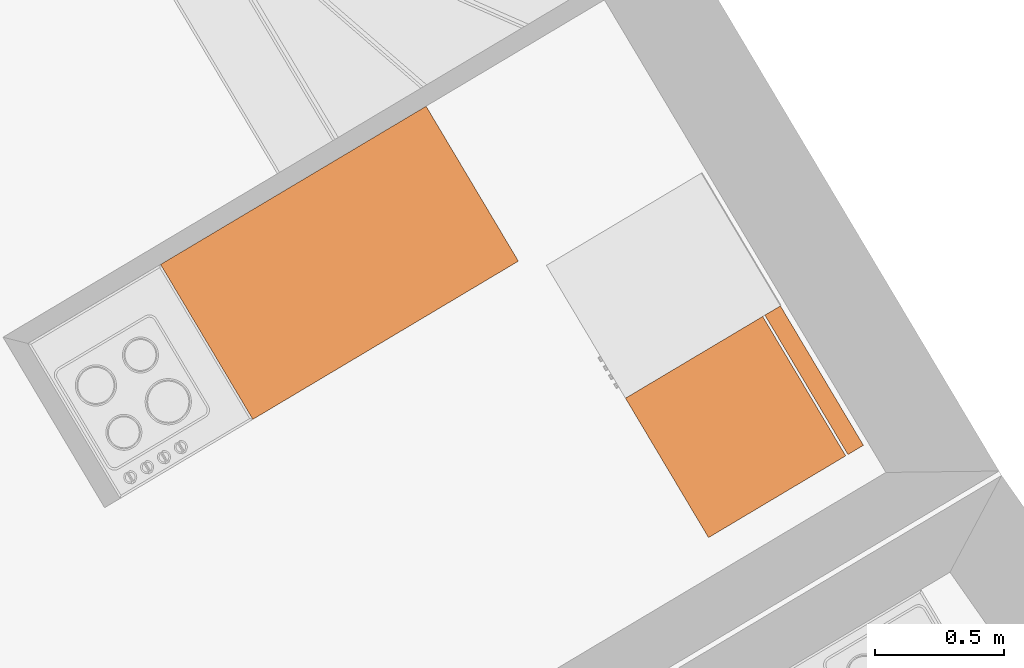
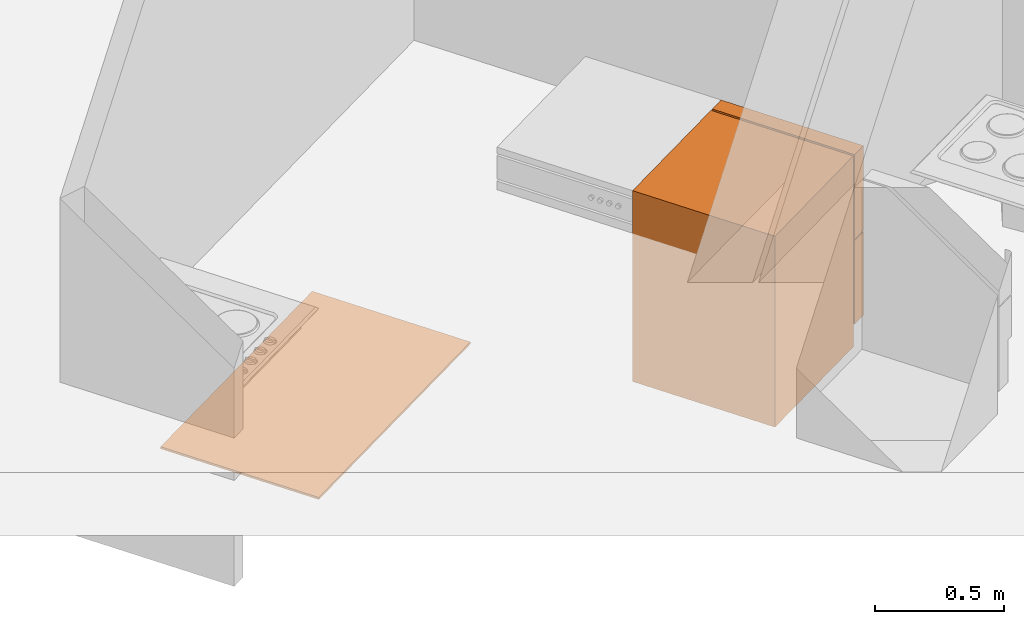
# One storey, part 188 of 195: 2 proxies.
"""IFC2X3 building model written with IfcOpenShell, lengths in metres."""

from ifc_helpers import new_model, entity, si_unit, converted_unit, derived_unit, money_unit, direction, frame, origin_with_axes, place, context, subcontext, project, spatial, open_shell, faceted_brep, surface_model, type_object, element, save


model = new_model("IFC2X3")

# Units and contexts
model_context = context("Model", 3, precision=1e-05, world=origin_with_axes(), true_north=direction((0.0, 1.0)))
body_context = subcontext(model_context, "Body", "Model", "MODEL_VIEW")
ifc_project = project(units=[si_unit("LENGTHUNIT", "METRE"), si_unit("AREAUNIT", "SQUARE_METRE"), si_unit("VOLUMEUNIT", "CUBIC_METRE"), converted_unit("PLANEANGLEUNIT", "DEGREE", entity("IfcPlaneAngleMeasure", 0.0174532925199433), si_unit("PLANEANGLEUNIT", "RADIAN"), dimensions=[0, 0, 0, 0, 0, 0, 0]), money_unit("CHF"), converted_unit("TIMEUNIT", "Year", entity("IfcTimeMeasure", 31557600.0), si_unit("TIMEUNIT", "SECOND"), dimensions=[0, 0, 1, 0, 0, 0, 0]), si_unit("MASSUNIT", "GRAM", prefix="KILO"), si_unit("THERMODYNAMICTEMPERATUREUNIT", "DEGREE_CELSIUS"), si_unit("LUMINOUSINTENSITYUNIT", "LUMEN"), si_unit("ENERGYUNIT", "JOULE", prefix="MEGA"), derived_unit("THERMALCONDUCTANCEUNIT", [(si_unit("POWERUNIT", "WATT"), 1), (si_unit("LENGTHUNIT", "METRE"), -1), (si_unit("THERMODYNAMICTEMPERATUREUNIT", "KELVIN"), -1)]), derived_unit("SPECIFICHEATCAPACITYUNIT", [(si_unit("ENERGYUNIT", "JOULE"), 1), (si_unit("MASSUNIT", "GRAM", prefix="KILO"), -1), (si_unit("THERMODYNAMICTEMPERATUREUNIT", "KELVIN"), -1)]), derived_unit("MASSDENSITYUNIT", [(si_unit("MASSUNIT", "GRAM", prefix="KILO"), 1), (si_unit("VOLUMEUNIT", "CUBIC_METRE"), -1)])], contexts=[model_context])

# Site, building, storey
site_placement = place(None, origin_with_axes())
site = spatial("IfcSite", under=ifc_project, at=site_placement, Name="Site", CompositionType="ELEMENT")
building_placement = place(site_placement, origin_with_axes())
building = spatial("IfcBuilding", under=site, at=building_placement, Name="Bâtiment", CompositionType="ELEMENT")
storey_placement = place(building_placement, origin_with_axes())
storey = spatial("IfcBuildingStorey", under=building, at=storey_placement, Name="rdc", CompositionType="ELEMENT", Elevation=0.0)

# Proxies
building_element_proxy_type = type_object("IfcBuildingElementProxyType", PredefinedType="NOTDEFINED")
proxy_1_placement = place(storey_placement, frame((9546.923154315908, -1051.068865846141, 57.0), z_axis=(0.0, 0.0, 1.0), x_axis=(0.8590868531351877, 0.511829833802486, 0.0)))
element("IfcBuildingElementProxy", 1, at=proxy_1_placement, inside=storey, type_object=building_element_proxy_type, Name="Obj.-019", context=body_context, shape_type="Brep", body=[
    faceted_brep([(1.2, 0.0, 0.0), (0.0, 0.0, 0.0), (0.0, 0.7, 0.0), (1.2, 0.7, 0.0), (1.2, 0.0, 0.009999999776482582), (0.0, 0.0, 0.009999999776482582), (0.0, 0.7, 0.009999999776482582), (1.2, 0.7, 0.009999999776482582)], [[[0, 1, 2, 3]], [[1, 0, 4, 5]], [[2, 1, 5, 6]], [[3, 2, 6, 7]], [[0, 3, 7, 4]], [[5, 4, 7, 6]]]),
])
proxy_2_placement = place(storey_placement, frame((9549.293685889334, -1051.169677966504, 57.0), z_axis=(0.0, 0.0, 1.0), x_axis=(-0.5118298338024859, 0.8590868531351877, 0.0)))
element("IfcBuildingElementProxy", 2, at=proxy_2_placement, inside=storey, type_object=building_element_proxy_type, Name="Obj.-019", context=body_context, shape_type="SurfaceModel", body=[
    faceted_brep([(0.0, 0.08, 0.1), (0.63, 0.08, 0.1), (0.63, 0.08, 0.9), (0.0, 0.08, 0.9), (0.0, 0.7000000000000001, 0.1), (0.63, 0.7000000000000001, 0.1), (0.63, 0.7000000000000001, 0.9), (0.0, 0.7000000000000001, 0.9)], [[[0, 1, 2, 3]], [[0, 4, 5, 1]], [[1, 5, 6, 2]], [[3, 2, 6, 7]], [[4, 0, 3, 7]], [[5, 4, 7, 6]]]),
    faceted_brep([(0.0, 0.08, 0.0), (0.63, 0.08, 0.0), (0.63, 0.08, 0.1), (0.0, 0.08, 0.1), (0.0, 0.7000000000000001, 0.0), (0.63, 0.7000000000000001, 0.0), (0.63, 0.7000000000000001, 0.1), (0.0, 0.7000000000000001, 0.1)], [[[0, 1, 2, 3]], [[0, 4, 5, 1]], [[1, 5, 6, 2]], [[3, 2, 6, 7]], [[4, 0, 3, 7]], [[5, 4, 7, 6]]]),
    faceted_brep([(0.0, 0.07, 0.1), (0.63, 0.07, 0.1), (0.63, 0.0, 0.1), (0.0, 0.0, 0.1), (0.0, 0.07000000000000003, 0.494), (0.63, 0.07000000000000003, 0.494), (0.63, 0.0, 0.494), (0.0, 0.0, 0.494)], [[[0, 1, 2, 3]], [[0, 4, 5, 1]], [[1, 5, 6, 2]], [[3, 2, 6, 7]], [[4, 0, 3, 7]], [[5, 4, 7, 6]]]),
    faceted_brep([(0.0, 0.07, 0.5), (0.63, 0.07, 0.5), (0.63, 0.0, 0.5), (0.0, 0.0, 0.5), (0.0, 0.07000000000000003, 0.9), (0.63, 0.07000000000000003, 0.9), (0.63, 0.0, 0.9), (0.0, 0.0, 0.9)], [[[0, 1, 2, 3]], [[0, 4, 5, 1]], [[1, 5, 6, 2]], [[3, 2, 6, 7]], [[4, 0, 3, 7]], [[5, 4, 7, 6]]]),
    surface_model("IfcShellBasedSurfaceModel", [(0.63, -0.03, 0.3), (0.63, -0.03, 0.4940000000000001), (0.63, 0.0, 0.4940000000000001), (0.63, 0.0, 0.3)], [open_shell([[[0, 1, 2, 3]]])]),
    surface_model("IfcShellBasedSurfaceModel", [(0.63, -0.03, 0.3), (0.63, -0.03, 0.4940000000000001), (0.6, -0.03, 0.4940000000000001), (0.6, -0.03, 0.3)], [open_shell([[[0, 1, 2, 3]]])]),
    surface_model("IfcShellBasedSurfaceModel", [(0.63, -0.03, 0.5), (0.63, -0.03, 0.7), (0.63, 0.0, 0.7), (0.63, 0.0, 0.5)], [open_shell([[[0, 1, 2, 3]]])]),
    surface_model("IfcShellBasedSurfaceModel", [(0.63, -0.03, 0.5), (0.63, -0.03, 0.7), (0.6, -0.03, 0.7), (0.6, -0.03, 0.5)], [open_shell([[[0, 1, 2, 3]]])]),
])

save(model, "model.ifc")
